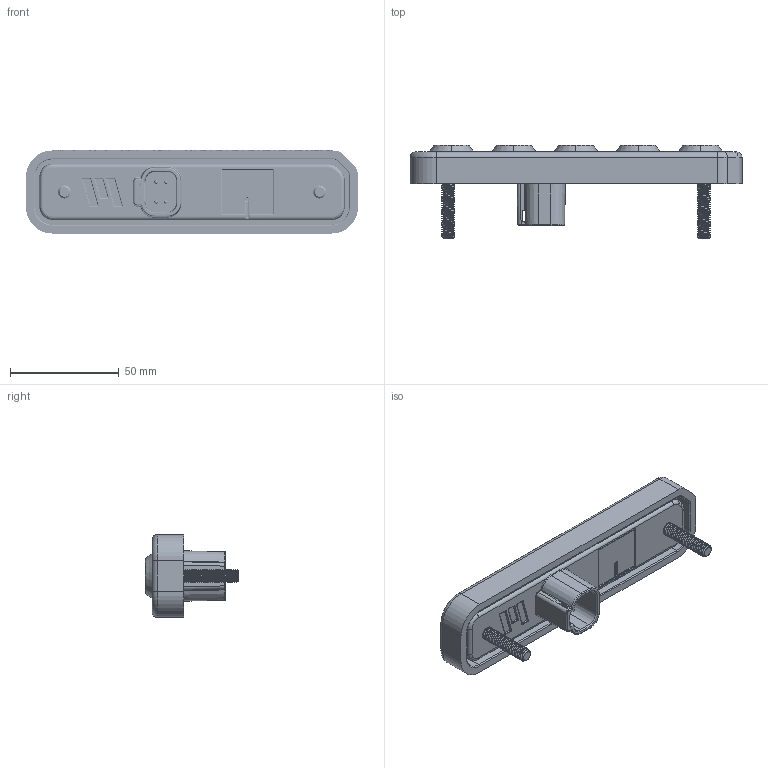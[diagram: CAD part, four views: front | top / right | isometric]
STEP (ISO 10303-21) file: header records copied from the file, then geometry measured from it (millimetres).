
FILE_DESCRIPTION (( 'STEP AP214' ), '1' );
FILE_NAME ('5 Btn Legend DT Conn.STEP', '2026-03-12T19:46:42', ( '' ), ( '' ), 'SwSTEP 2.0', 'SolidWorks 2025', '' );
FILE_SCHEMA (( 'AUTOMOTIVE_DESIGN' ));
Length unit declared in the file: inch
Products named in the file (25): 5 Btn Legend DT Conn; 17212DA; LightWall_1_5; QFN50P600X600X100-37V1N_CMP-047-000202-7; CAP_1206_Medium_Density_CMP-005-000526-13; CAP_0402_Medium_Density_CMP-001-00008-5; SOIC127P600X175-8M_CMP-047-000180-10; DO-218AB_CMP-003-000212-7; SOT95P280X100-6M_CMP-063-000016-10; 10mm_dome; 18293DA; 17211DA; 309550_309550; CAP_0402_High_Density_CMP-001-00008-5; 18294DA_93580A728; SODFL470X103-2N_CMP-004-00003-5; CAP_1206_Medium_Density_CMP-005-000539-14; 17210DA; OSCCC200X250X080M_CMP-043-000021-10; SOT95P280X145-5M_CMP-047-000172-10; CAP_0402_High_Density_CMP-005-000541-11; CAP_0603_Medium_Density_CMP-005-000556-14; 309550_309550_BOARD; FP-SRN6045TA-MFG_CMP-006-00008-1
Assembly tree (46 placements, depth 3):
  5 Btn Legend DT Conn
    309550_309550
      309550_309550_BOARD
      CAP_1206_Medium_Density_CMP-005-000539-14  x2
      CAP_0402_High_Density_CMP-001-00008-5  x5
      CAP_0603_Medium_Density_CMP-005-000556-14
      OSCCC200X250X080M_CMP-043-000021-10
      QFN50P600X600X100-37V1N_CMP-047-000202-7
      SOIC127P600X175-8M_CMP-047-000180-10
      SOT95P280X145-5M_CMP-047-000172-10
      SOT95P280X100-6M_CMP-063-000016-10
      FP-SRN6045TA-MFG_CMP-006-00008-1
      SODFL470X103-2N_CMP-004-00003-5
      DO-218AB_CMP-003-000212-7
      CAP_1206_Medium_Density_CMP-005-000526-13  x6
      CAP_0402_Medium_Density_CMP-001-00008-5  x2
      CAP_0402_High_Density_CMP-005-000541-11
    17210DA
    LightWall_1_5  x4
    18293DA  x4
    17211DA
    18294DA_93580A728  x2
    17212DA
      17212DA
      10mm_dome  x5
Bounding box: 152.4 x 43.02 x 38.1 mm (x, y, z)
Volume: 55390.1 mm3; surface area: 64504.2 mm2
Topology: 157 solids, 157 shells, 5143 faces, 12552 edges, 7410 vertices
Faces by surface type: plane 1876, cylinder 1705, torus 658, sphere 394, cone 259, bspline 251
Entity records: 156020 total; most frequent: CARTESIAN_POINT 31202, DIRECTION 18976, ORIENTED_EDGE 18420, EDGE_CURVE 9210, AXIS2_PLACEMENT_3D 7077, VERTEX_POINT 5620, LINE 4822, VECTOR 4822
